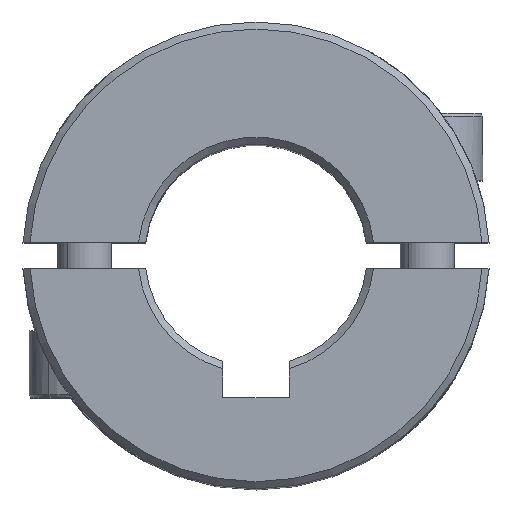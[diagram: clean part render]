
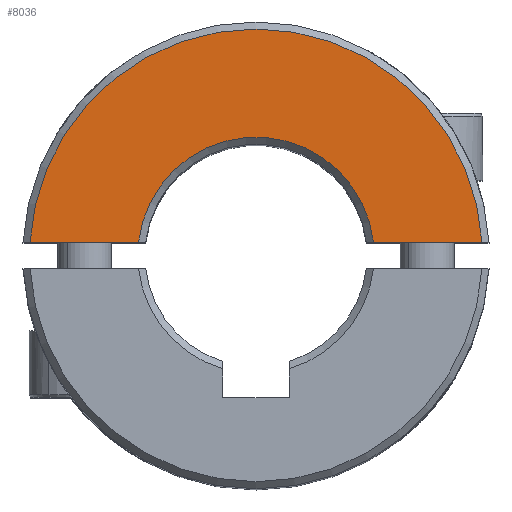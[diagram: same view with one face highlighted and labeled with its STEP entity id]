
A CAD part, top view. The second image highlights one B-rep face of the part: STEP entity #8036.
In plain terms, the highlighted planar face has unit normal (0, 0, 1).
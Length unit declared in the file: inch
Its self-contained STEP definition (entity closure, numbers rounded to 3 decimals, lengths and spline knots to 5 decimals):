
#5596=DIRECTION('',(-1.,0.,0.));
#5597=VECTOR('',#5596,0.38433);
#5598=CARTESIAN_POINT('',(0.8004,0.04688,1.27953));
#5599=LINE('',#5598,#5597);
#5627=CARTESIAN_POINT('',(0.,0.,1.27953));
#5628=DIRECTION('',(0.,0.,-1.));
#5629=DIRECTION('',(-0.994,0.112,0.));
#5630=AXIS2_PLACEMENT_3D('',#5627,#5628,#5629);
#5662=DIRECTION('',(-1.,0.,0.));
#5663=VECTOR('',#5662,0.38433);
#5664=CARTESIAN_POINT('',(-0.41607,0.04688,1.27953));
#5665=LINE('',#5664,#5663);
#5669=CARTESIAN_POINT('',(-0.41607,0.04688,1.27953));
#5763=CARTESIAN_POINT('',(0.,0.,1.27953));
#5764=DIRECTION('',(0.,0.,1.));
#5765=DIRECTION('',(0.998,0.058,0.));
#5766=AXIS2_PLACEMENT_3D('',#5763,#5764,#5765);
#7339=CARTESIAN_POINT('',(0.8004,0.04688,1.27953));
#7340=CARTESIAN_POINT('',(0.41607,0.04688,1.27953));
#7341=VERTEX_POINT('',#7339);
#7342=VERTEX_POINT('',#7340);
#7351=VERTEX_POINT('',#5669);
#7356=CARTESIAN_POINT('',(-0.8004,0.04688,1.27953));
#7357=VERTEX_POINT('',#7356);
#8025=CARTESIAN_POINT('',(0.,0.,1.27953));
#8026=DIRECTION('',(0.,0.,1.));
#8027=DIRECTION('',(1.,0.,0.));
#8028=AXIS2_PLACEMENT_3D('',#8025,#8026,#8027);
#8029=PLANE('',#8028);
#8030=ORIENTED_EDGE('',*,*,#7923,.F.);
#8031=ORIENTED_EDGE('',*,*,#7943,.T.);
#8032=ORIENTED_EDGE('',*,*,#8019,.F.);
#8033=ORIENTED_EDGE('',*,*,#7895,.T.);
#8034=EDGE_LOOP('',(#8030,#8031,#8032,#8033));
#8035=FACE_OUTER_BOUND('',#8034,.F.);
#5631=CIRCLE('',#5630,0.4187);
#5767=CIRCLE('',#5766,0.80177);
#7895=EDGE_CURVE('',#7341,#7342,#5599,.T.);
#7923=EDGE_CURVE('',#7351,#7342,#5631,.T.);
#7943=EDGE_CURVE('',#7351,#7357,#5665,.T.);
#8019=EDGE_CURVE('',#7341,#7357,#5767,.T.);
#8036=ADVANCED_FACE('',(#8035),#8029,.T.);
